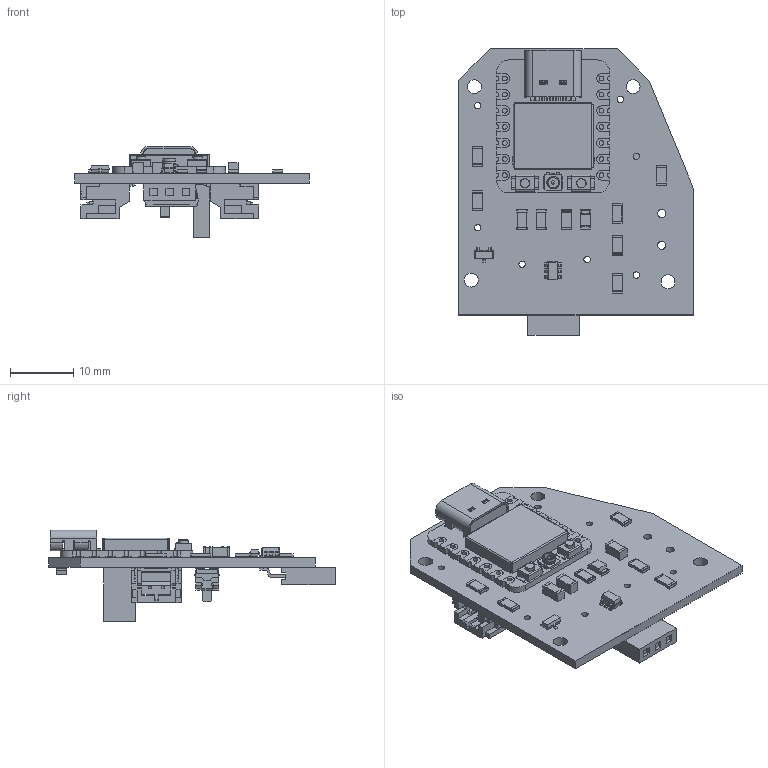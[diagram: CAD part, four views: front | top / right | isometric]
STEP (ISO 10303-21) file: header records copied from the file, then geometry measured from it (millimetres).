
FILE_DESCRIPTION(('KiCad electronic assembly'),'2;1');
FILE_NAME('cromira_xiao_v2.step','2025-05-30T08:11:48',('Pcbnew'),( 'Kicad'),'Open CASCADE STEP processor 7.8','KiCad to STEP converter' ,'Unknown');
FILE_SCHEMA(('AUTOMOTIVE_DESIGN { 1 0 10303 214 1 1 1 1 }'));
Length unit declared in the file: millimetre
Products named in the file (45): cromira_xiao_v2 1; L_1206_3216Metric; LED_1206_3216Metric; C_1206_3216Metric; R_1206_3216Metric; SOT-23-6; Seeed Studio XIAO-ESP32-C3; USB TYPE C PORT; USB TYPE C PORT (1); BOSS-EXTRUDE14_8_; BOSS-EXTRUDE7_4_; BOSS-EXTRUDE7_3_; BOSS-EXTRUDE14_4_; BOSS-EXTRUDE14_2_; BOSS-EXTRUDE14_11_; BOSS-EXTRUDE7_7_; BOSS-EXTRUDE14_9_; BOSS-EXTRUDE14_3_; BOSS-EXTRUDE14_7_; MIRROR2; BOSS-EXTRUDE14_5_; BOSS-EXTRUDE14_12_; BOSS-EXTRUDE7_8_; BOSS-EXTRUDE7_1_; BOSS-EXTRUDE14_10_; BOSS-EXTRUDE7_9_; BOSS-EXTRUDE14_6_; CHAMFER9; BOSS-EXTRUDE14_1_; BOSS-EXTRUDE7_6_; BOSS-EXTRUDE7_2_; CUT-EXTRUDE5; BOSS-EXTRUDE7_5_; U.FL Connector v1; Button (1); Shield; SOLID; SI2336DS-T1-GE3; PinSocket_1x02_P2.54mm_Vertical; JS102011JCQN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
Assembly tree (56 placements, depth 5):
  cromira_xiao_v2 1
    L_1206_3216Metric
    LED_1206_3216Metric  x2
    C_1206_3216Metric  x2
    R_1206_3216Metric  x7
    SOT-23-6
    Seeed Studio XIAO-ESP32-C3
      USB TYPE C PORT
        USB TYPE C PORT (1)
          BOSS-EXTRUDE14_8_
          BOSS-EXTRUDE7_4_
          BOSS-EXTRUDE7_3_
          BOSS-EXTRUDE14_4_
          BOSS-EXTRUDE14_2_
          BOSS-EXTRUDE14_11_
          BOSS-EXTRUDE7_7_
          BOSS-EXTRUDE14_9_
          BOSS-EXTRUDE14_3_
          BOSS-EXTRUDE14_7_
          MIRROR2
          BOSS-EXTRUDE14_5_
          BOSS-EXTRUDE14_12_
          BOSS-EXTRUDE7_8_
          BOSS-EXTRUDE7_1_
          BOSS-EXTRUDE14_10_
          BOSS-EXTRUDE7_9_
          BOSS-EXTRUDE14_6_
          CHAMFER9
          BOSS-EXTRUDE14_1_
          BOSS-EXTRUDE7_6_
          BOSS-EXTRUDE7_2_
          CUT-EXTRUDE5
          BOSS-EXTRUDE7_5_
      U.FL Connector v1
      Button (1)  x2
      Shield
      SOLID
    SI2336DS-T1-GE3
    PinSocket_1x02_P2.54mm_Vertical
    JS102011JCQN
    BG300-03-X-X-A_REVC
      body^BG301-xxx
      pin^BG301-xxx  x3
    S2B-PH-SM4-TB  x2
    cromira_xiao_PCB
Bounding box: 37 x 45.23 x 14.39 mm (x, y, z)
Volume: 3302.4 mm3; surface area: 6936.5 mm2
Topology: 73 solids, 73 shells, 2121 faces, 5546 edges, 3589 vertices
Faces by surface type: plane 1625, cylinder 434, bspline 32, torus 14, cone 9, sphere 7
Full cylindrical faces by diameter (mm): 0.5 x3, 0.6 x2, 0.7 x2, 0.75 x14, 1 x10, 1.3 x2, 1.5 x2, 1.524 x6, 1.65 x1, 1.9 x1, 2 x2, 2.2 x4
Entity records: 56610 total; most frequent: CARTESIAN_POINT 9306, ORIENTED_EDGE 8684, DIRECTION 8428, EDGE_CURVE 4342, LINE 3582, VECTOR 3582, VERTEX_POINT 2809, AXIS2_PLACEMENT_3D 2423
